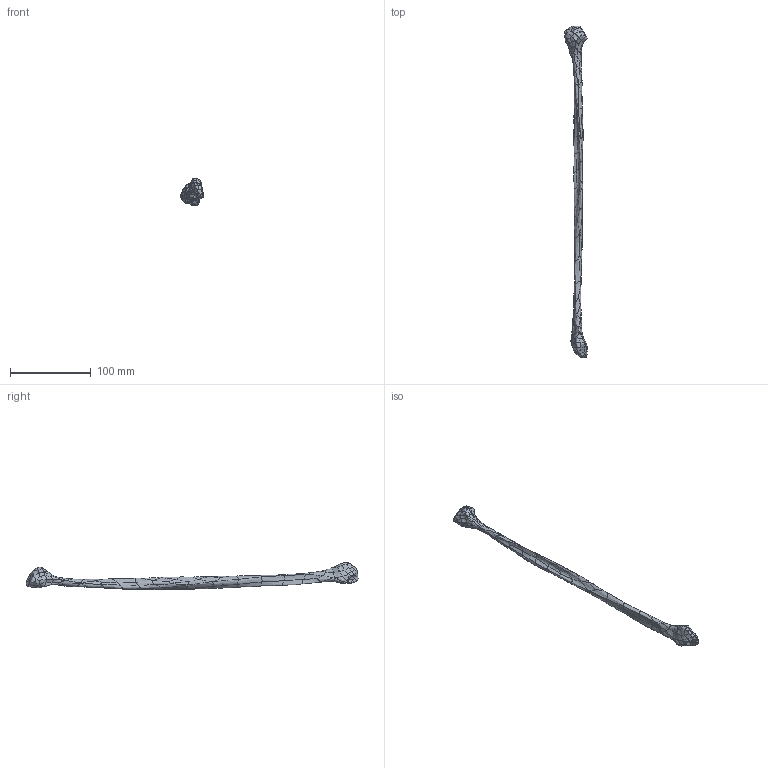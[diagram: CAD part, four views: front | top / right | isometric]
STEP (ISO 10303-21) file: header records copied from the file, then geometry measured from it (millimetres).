
FILE_DESCRIPTION (( 'STEP AP203' ), '1' );
FILE_NAME ('1127.STEP', '2025-06-04T20:25:55', ( '' ), ( '' ), 'SwSTEP 2.0', 'SolidWorks 2024', '' );
FILE_SCHEMA (( 'CONFIG_CONTROL_DESIGN' ));
Length unit declared in the file: millimetre
Products named in the file (1): 1127
Bounding box: 28.22 x 410.59 x 33.56 mm (x, y, z)
Volume: 47027.2 mm3; surface area: 17264.5 mm2
Topology: 1 solids, 1 shells, 497 faces, 1178 edges, 687 vertices
Faces by surface type: bspline 494, plane 3
Entity records: 49035 total; most frequent: CARTESIAN_POINT 41547, ORIENTED_EDGE 2356, EDGE_CURVE 1178, B_SPLINE_CURVE_WITH_KNOTS 1178, VERTEX_POINT 687, EDGE_LOOP 501, ADVANCED_FACE 497, FACE_OUTER_BOUND 497
